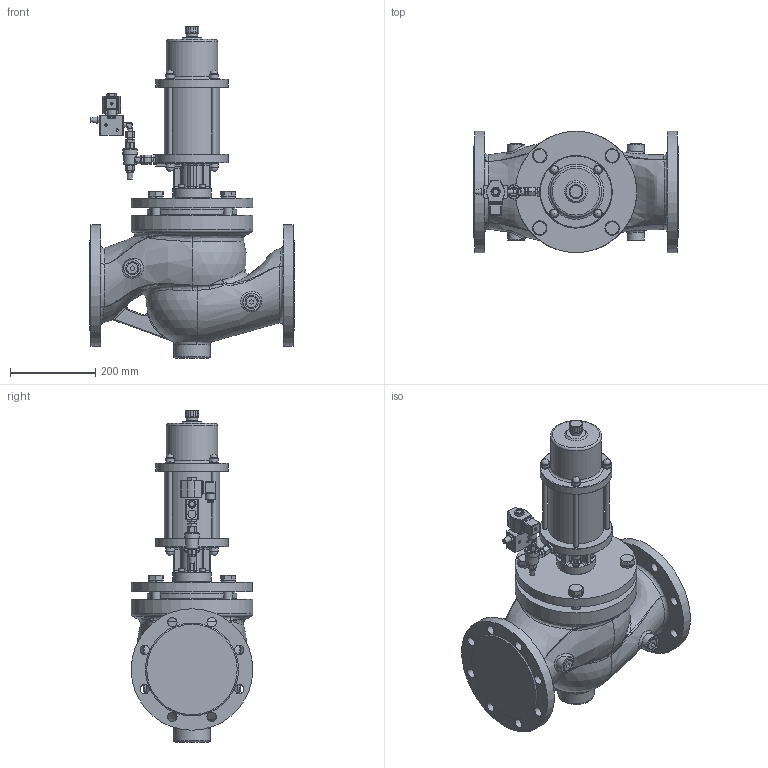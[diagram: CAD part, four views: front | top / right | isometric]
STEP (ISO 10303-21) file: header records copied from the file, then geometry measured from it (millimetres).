
FILE_DESCRIPTION((''),'2;1');
FILE_NAME('G:\CAD-Download\EPVA\10-4-EPVA\DN 150\10-4-EPVA 150H-4.00.32.stp','2010-05-17T15:24:57',('hb'),(''),'Autodesk Inventor 2008','Autodesk Inventor 2008','');
FILE_SCHEMA(('AUTOMOTIVE_DESIGN { 1 0 10303 214 1 1 1 1 }'));
Length unit declared in the file: millimetre
Products named in the file (1): Bauteil33
Bounding box: 480 x 285 x 778.55 mm (x, y, z)
Volume: 28168278.2 mm3; surface area: 1088482.6 mm2
Topology: 1 solids, 1 shells, 1164 faces, 3040 edges, 1862 vertices
Faces by surface type: plane 510, cylinder 266, bspline 235, cone 99, torus 27, sphere 27
Full cylindrical faces by diameter (mm): 5.5 x1, 6.4 x1, 6.9 x1, 8 x8, 10 x14, 11.405 x1, 11.445 x1, 13 x4, 14 x1, 14.376 x1, 16 x1, 19 x3, 19.3 x8, 20 x8, 20.15 x2, 20.8 x8, 21.5 x1, 22 x8, 26 x4, 26.6 x1, 28.19 x4, 30 x1, 31 x2, 32.2 x1, 34 x1, 40 x2, 50 x1, 85 x1, 90 x1, 120 x1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
Entity records: 62261 total; most frequent: CARTESIAN_POINT 35292, ORIENTED_EDGE 5400, DIRECTION 5055, EDGE_CURVE 2700, AXIS2_PLACEMENT_3D 2006, VERTEX_POINT 1750, EDGE_LOOP 1527, FACE_OUTER_BOUND 1163
